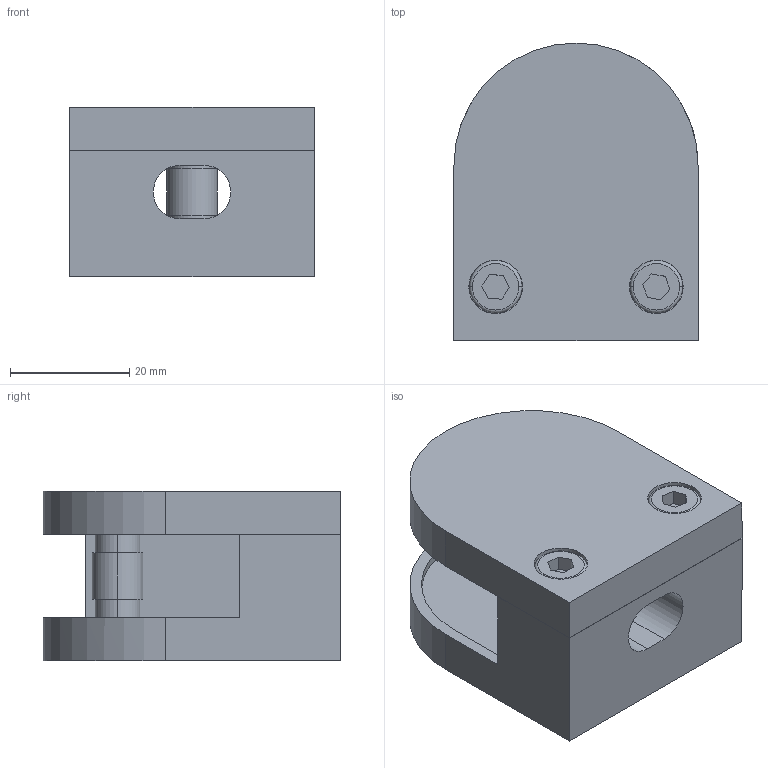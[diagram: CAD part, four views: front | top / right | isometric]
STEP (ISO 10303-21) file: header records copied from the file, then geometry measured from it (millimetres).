
FILE_DESCRIPTION (( 'STEP AP203' ), '1' );
FILE_NAME ('3D_GG4002_G Flach_188758230.STEP', '2024-11-01T11:34:03', ( '' ), ( '' ), 'SwSTEP 2.0', 'SolidWorks 2023', '' );
FILE_SCHEMA (( 'CONFIG_CONTROL_DESIGN' ));
Length unit declared in the file: millimetre
Products named in the file (1): 3D_GG4002_G Flach_188758230
Bounding box: 41 x 50 x 28.5 mm (x, y, z)
Volume: 35304.1 mm3; surface area: 15478.8 mm2
Topology: 5 solids, 5 shells, 93 faces, 205 edges, 134 vertices
Faces by surface type: plane 51, cylinder 34, cone 4, torus 4
Entity records: 2657 total; most frequent: DIRECTION 474, CARTESIAN_POINT 433, ORIENTED_EDGE 410, EDGE_CURVE 205, AXIS2_PLACEMENT_3D 175, VERTEX_POINT 134, LINE 124, VECTOR 124
